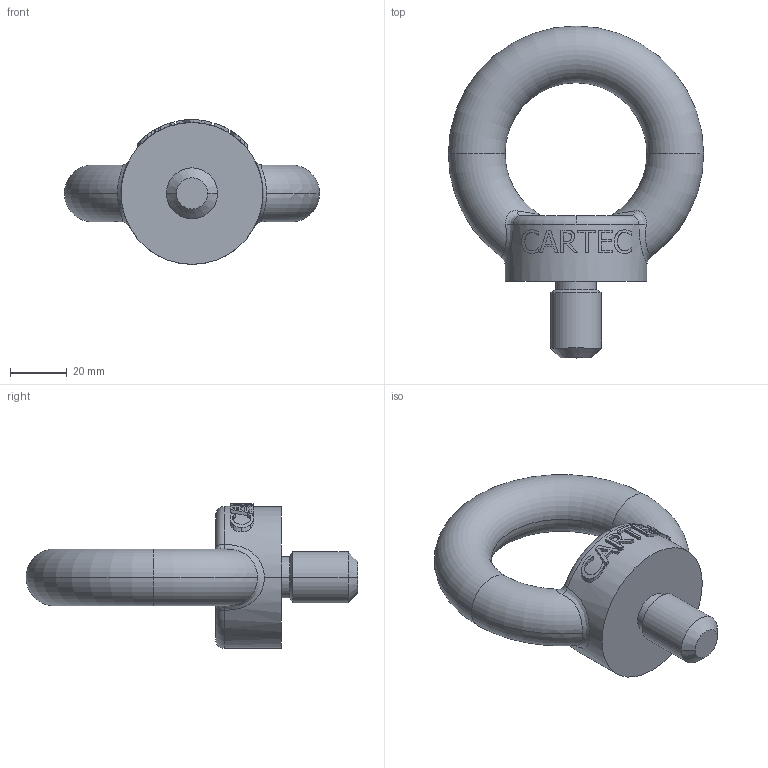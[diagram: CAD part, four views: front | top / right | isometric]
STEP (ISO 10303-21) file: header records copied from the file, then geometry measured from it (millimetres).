
FILE_DESCRIPTION(('STEP AP214'),'1');
FILE_NAME('c80318.stp','2017-03-22T15:09:03',('TraceParts'),('TraceParts S.A.'),'Spatial InterOp 3D',' ',' ');
FILE_SCHEMA(('automotive_design'));
Length unit declared in the file: millimetre
Products named in the file (1): c80318
Bounding box: 90 x 117 x 51 mm (x, y, z)
Volume: 105061.4 mm3; surface area: 19244 mm2
Topology: 1 solids, 1 shells, 128 faces, 339 edges, 220 vertices
Faces by surface type: plane 53, bspline 47, cylinder 14, torus 10, cone 4
Entity records: 6152 total; most frequent: CARTESIAN_POINT 2164, ORIENTED_EDGE 678, DIRECTION 509, EDGE_CURVE 339, VERTEX_POINT 220, AXIS2_PLACEMENT_3D 188, EDGE_LOOP 137, LINE 133
